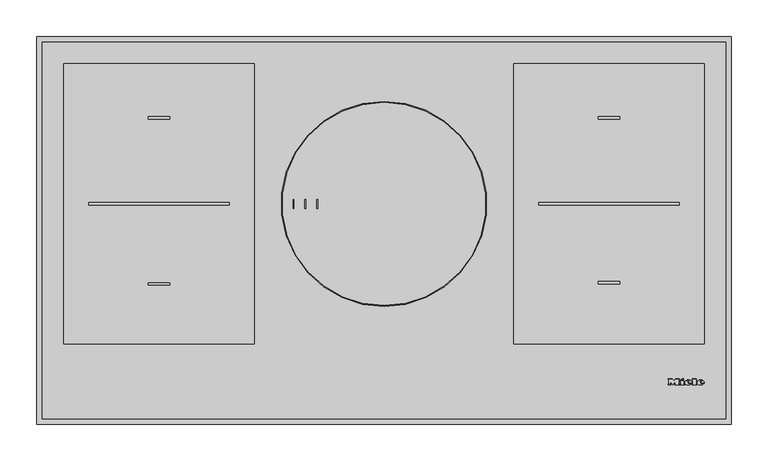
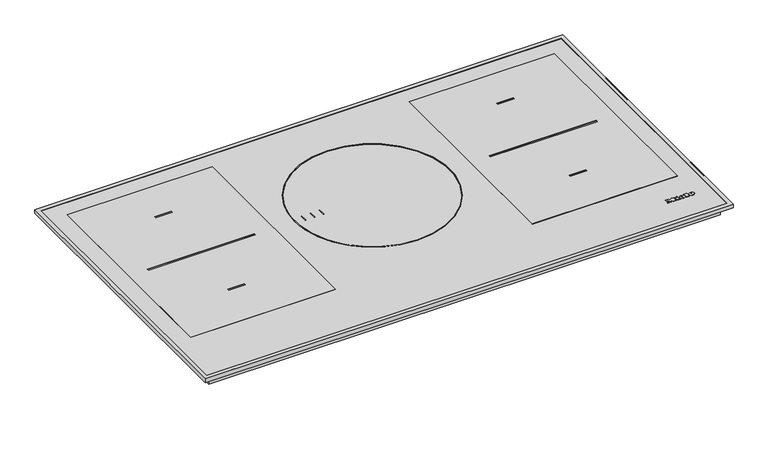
"""IFC4 building model written with IfcOpenShell, lengths in millimetres: proxy geometry, 11276540_BR_KM7594FR : 26759400_BR_11276540_KM7594FR."""

from ifc_helpers import new_model, si_unit, point, frame, frame_2d, origin, place, context, project, spatial, polyline, circle_curve, ellipse_curve, trimmed, segment, composite_curve, outline, extrude, faceted_brep, source, transform, mapped, element, save
from ifc_brep_helpers import plane_surface, cylinder_surface, revolved_surface, extruded_surface, advanced_brep


def specialty_equipment_291f9324(model_context):
    return source(origin(), model_context, "Body", "SolidModel", [
        advanced_brep(
        [(428.96, 55.3948833, 6.4802537), (428.96, 56.2028828, 6.4811551), (434.312, 56.2028828, 6.4811551), (425.0, 56.2028828, 6.4811551), (427.2, 53.4988845, 6.4781386), (434.176, 55.3948833, 6.4802537), (431.76, 55.3948833, 6.4802537), (429.856, 54.4988838, 6.4792542), (428.96, 57.2268821, 6.4822974), (428.96, 58.0988816, 6.4832701), (430.328, 58.0988816, 6.4832701), (430.328, 57.2268821, 6.4822974), (428.96, 55.3959988, 5.4802543), (429.856, 54.4999994, 5.4792548), (431.76, 55.3959988, 5.4802543), (434.176, 55.3959988, 5.4802543), (427.2, 53.5, 5.4781393), (425.0, 56.2039983, 5.4811557), (434.312, 56.2039983, 5.4811557), (428.96, 56.2039983, 5.4811557), (428.96, 57.2279977, 5.482298), (430.328, 57.2279977, 5.482298), (430.328, 58.0999971, 5.4832707), (428.96, 58.0999971, 5.4832707)],
        [
            (0, 1),
            (1, 2),
            (2, 3, ellipse_curve(frame((429.656, 56.2028828, 6.4811551), z_axis=(0.0, -0.0011155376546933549, 0.9999993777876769), x_axis=(-1.0, 0.0, 0.0)), 4.656, 3.848)),
            (3, 4, circle_curve(frame((428.0960436, 56.4748826, 6.4814585), z_axis=(0.0, -0.0011155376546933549, 0.9999993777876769), x_axis=(0.0, -0.9999993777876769, -0.0011155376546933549)), 3.1079688)),
            (4, 5, circle_curve(frame((429.5627936, 58.5868813, 6.4838145), z_axis=(0.0, -0.0011155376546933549, 0.9999993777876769), x_axis=(0.0, -0.9999993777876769, -0.0011155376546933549)), 5.6098607)),
            (5, 6),
            (6, 7, circle_curve(frame((430.2470588, 56.1388828, 6.4810837), z_axis=(0.0, 0.0011155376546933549, -0.9999993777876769), x_axis=(0.0, -0.9999993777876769, -0.0011155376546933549)), 1.6859795)),
            (7, 0, circle_curve(frame((429.856, 55.3948833, 6.4802537), z_axis=(0.0, 0.0011155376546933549, -0.9999993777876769), x_axis=(0.0, -0.9999993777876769, -0.0011155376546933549)), 0.896)),
            (8, 9),
            (9, 10, circle_curve(frame((429.644, 58.0988816, 6.4832701), z_axis=(0.0, 0.0011155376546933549, -0.9999993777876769), x_axis=(0.0, -0.9999993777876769, -0.0011155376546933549)), 0.684)),
            (10, 11),
            (11, 8),
            (12, 13, circle_curve(frame((429.856, 55.3959988, 5.4802543), z_axis=(0.0, -0.0011155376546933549, 0.9999993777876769), x_axis=(0.0, -0.9999993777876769, -0.0011155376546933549)), 0.896)),
            (13, 14, circle_curve(frame((430.2470588, 56.1399984, 5.4810843), z_axis=(0.0, -0.0011155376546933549, 0.9999993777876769), x_axis=(0.0, -0.9999993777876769, -0.0011155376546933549)), 1.6859795)),
            (14, 15),
            (15, 16, circle_curve(frame((429.5627936, 58.5879968, 5.4838151), z_axis=(0.0, 0.0011155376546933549, -0.9999993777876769), x_axis=(0.0, -0.9999993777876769, -0.0011155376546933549)), 5.6098607)),
            (16, 17, circle_curve(frame((428.0960436, 56.4759981, 5.4814591), z_axis=(0.0, 0.0011155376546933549, -0.9999993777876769), x_axis=(0.0, -0.9999993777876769, -0.0011155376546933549)), 3.1079688)),
            (17, 18, ellipse_curve(frame((429.656, 56.2039983, 5.4811557), z_axis=(0.0, 0.0011155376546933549, -0.9999993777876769), x_axis=(-1.0, 0.0, 0.0)), 4.656, 3.848)),
            (18, 19),
            (19, 12),
            (20, 21),
            (21, 22),
            (22, 23, circle_curve(frame((429.644, 58.0999971, 5.4832707), z_axis=(0.0, -0.0011155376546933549, 0.9999993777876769), x_axis=(0.0, -0.9999993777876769, -0.0011155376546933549)), 0.684)),
            (23, 20),
            (0, 12),
            (19, 1),
            (18, 2),
            (5, 15),
            (14, 6),
            (17, 3),
            (13, 7),
            (16, 4),
            (8, 20),
            (23, 9),
            (22, 10),
            (21, 11),
        ],
        [
            plane_surface(frame((428.96, 56.2028828, 6.4811551), z_axis=(0.0, -0.0011155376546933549, 0.9999993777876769), x_axis=(0.0, 0.9999993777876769, 0.0011155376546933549))),
            plane_surface(frame((428.96, 56.2039983, 5.4811557), z_axis=(0.0, 0.0011155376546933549, -0.9999993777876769), x_axis=(0.0, -0.9999993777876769, -0.0011155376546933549))),
            plane_surface(frame((428.96, 55.3948833, 6.4802537), z_axis=(1.0000000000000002, 0.0, 0.0), x_axis=(0.0, 0.001115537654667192, -0.999999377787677))),
            plane_surface(frame((428.96, 56.2028828, 6.4811551), z_axis=(0.0, -0.999999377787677, -0.001115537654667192), x_axis=(0.0, 0.001115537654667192, -0.999999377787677))),
            plane_surface(frame((434.176, 55.3948833, 6.4802537), z_axis=(0.0, 0.999999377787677, 0.001115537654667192), x_axis=(0.0, 0.001115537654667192, -0.999999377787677))),
            extruded_surface(trimmed(ellipse_curve(frame((429.656, 56.2051139, 4.4811563), z_axis=(0.0, -0.0011155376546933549, 0.9999993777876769), x_axis=(-1.0, 0.0, 0.0)), 4.656, 3.848), [point((434.312, 56.2051139, 4.4811563))], [point((425.0, 56.2051139, 4.4811563))], True, "CARTESIAN"), (0.0, -0.001115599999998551, 0.9999994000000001), 1.00000002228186),
            revolved_surface(polyline([(430.2470588, 54.454019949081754, 5.479203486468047), (430.2470588, 54.45290441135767, 6.4792029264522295)]), (430.2470588, 56.1399984, 5.4810843), (0.0, 0.0011155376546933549, -0.9999993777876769)),
            revolved_surface(polyline([(429.856, 54.49999935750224, 5.479254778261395), (429.856, 54.49888381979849, 6.479254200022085)]), (429.856, 55.3959988, 5.4802543), (0.0, 0.0011155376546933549, -0.9999993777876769)),
            cylinder_surface(frame((428.0960436, 56.4759981, 5.4814591), z_axis=(0.0, -0.0011155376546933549, 0.9999993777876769), x_axis=(0.0, -0.9999993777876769, -0.0011155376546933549)), 3.1079688),
            cylinder_surface(frame((429.5627936, 58.5879968, 5.4838151), z_axis=(0.0, -0.0011155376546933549, 0.9999993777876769), x_axis=(0.0, -0.9999993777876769, -0.0011155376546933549)), 5.6098607),
            plane_surface(frame((428.96, 57.2268821, 6.4822974), z_axis=(1.0000000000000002, 0.0, 0.0), x_axis=(0.0, 0.001115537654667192, -0.999999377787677))),
            revolved_surface(polyline([(429.644, 57.415997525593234, 5.48250767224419), (429.644, 57.41488198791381, 6.482507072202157)]), (429.644, 58.0999971, 5.4832707), (0.0, 0.0011155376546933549, -0.9999993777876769)),
            plane_surface(frame((430.328, 58.0988816, 6.4832701), z_axis=(-1.0000000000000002, 0.0, 0.0), x_axis=(0.0, 0.001115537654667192, -0.999999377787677))),
            plane_surface(frame((430.328, 57.2268821, 6.4822974), z_axis=(0.0, 0.999999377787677, 0.001115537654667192), x_axis=(0.0, 0.001115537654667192, -0.999999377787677))),
        ],
        [
            (0, [[1, 2, 3, 4, 5, 6, 7, 8], [9, 10, 11, 12]]),
            (1, [[13, 14, 15, 16, 17, 18, 19, 20], [21, 22, 23, 24]]),
            (2, [[-1, 25, -20, 26]]),
            (3, [[-2, -26, -19, 27]]),
            (4, [[-6, 28, -15, 29]]),
            (5, [[-3, -27, -18, 30]]),
            (6, [[-7, -29, -14, 31]]),
            (7, [[-8, -31, -13, -25]]),
            (8, [[-4, -30, -17, 32]]),
            (9, [[-5, -32, -16, -28]]),
            (10, [[-9, 33, -24, 34]]),
            (11, [[-10, -34, -23, 35]]),
            (12, [[-11, -35, -22, 36]]),
            (13, [[-12, -36, -21, -33]]),
        ],
    ),
        advanced_brep(
        [(412.264, 55.3948833, 6.4802537), (412.264, 56.2028828, 6.4811551), (417.616, 56.2028828, 6.4811551), (408.304, 56.2028828, 6.4811551), (410.504, 53.4988845, 6.4781386), (417.48, 55.3948833, 6.4802537), (415.064, 55.3948833, 6.4802537), (413.16, 54.4988838, 6.4792542), (412.264, 57.2268821, 6.4822974), (412.264, 58.0988816, 6.4832701), (413.632, 58.0988816, 6.4832701), (413.632, 57.2268821, 6.4822974), (412.264, 55.3959988, 5.4802543), (413.16, 54.4999994, 5.4792548), (415.064, 55.3959988, 5.4802543), (417.48, 55.3959988, 5.4802543), (410.504, 53.5, 5.4781393), (408.304, 56.2039983, 5.4811557), (417.616, 56.2039983, 5.4811557), (412.264, 56.2039983, 5.4811557), (412.264, 57.2279977, 5.482298), (413.632, 57.2279977, 5.482298), (413.632, 58.0999971, 5.4832707), (412.264, 58.0999971, 5.4832707)],
        [
            (0, 1),
            (1, 2),
            (2, 3, ellipse_curve(frame((412.96, 56.2028828, 6.4811551), z_axis=(0.0, -0.0011155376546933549, 0.9999993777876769), x_axis=(-1.0, 0.0, 0.0)), 4.656, 3.848)),
            (3, 4, circle_curve(frame((411.4000436, 56.4748826, 6.4814585), z_axis=(0.0, -0.0011155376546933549, 0.9999993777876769), x_axis=(0.0, -0.9999993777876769, -0.0011155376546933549)), 3.1079688)),
            (4, 5, circle_curve(frame((412.8667936, 58.5868813, 6.4838145), z_axis=(0.0, -0.0011155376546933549, 0.9999993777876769), x_axis=(0.0, -0.9999993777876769, -0.0011155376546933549)), 5.6098607)),
            (5, 6),
            (6, 7, circle_curve(frame((413.5510588, 56.1388828, 6.4810837), z_axis=(0.0, 0.0011155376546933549, -0.9999993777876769), x_axis=(0.0, -0.9999993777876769, -0.0011155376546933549)), 1.6859795)),
            (7, 0, circle_curve(frame((413.16, 55.3948833, 6.4802537), z_axis=(0.0, 0.0011155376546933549, -0.9999993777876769), x_axis=(0.0, -0.9999993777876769, -0.0011155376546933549)), 0.896)),
            (8, 9),
            (9, 10, circle_curve(frame((412.948, 58.0988816, 6.4832701), z_axis=(0.0, 0.0011155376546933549, -0.9999993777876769), x_axis=(0.0, -0.9999993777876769, -0.0011155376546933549)), 0.684)),
            (10, 11),
            (11, 8),
            (12, 13, circle_curve(frame((413.16, 55.3959988, 5.4802543), z_axis=(0.0, -0.0011155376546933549, 0.9999993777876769), x_axis=(0.0, -0.9999993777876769, -0.0011155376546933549)), 0.896)),
            (13, 14, circle_curve(frame((413.5510588, 56.1399984, 5.4810843), z_axis=(0.0, -0.0011155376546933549, 0.9999993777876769), x_axis=(0.0, -0.9999993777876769, -0.0011155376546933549)), 1.6859795)),
            (14, 15),
            (15, 16, circle_curve(frame((412.8667936, 58.5879968, 5.4838151), z_axis=(0.0, 0.0011155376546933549, -0.9999993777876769), x_axis=(0.0, -0.9999993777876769, -0.0011155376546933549)), 5.6098607)),
            (16, 17, circle_curve(frame((411.4000436, 56.4759981, 5.4814591), z_axis=(0.0, 0.0011155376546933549, -0.9999993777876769), x_axis=(0.0, -0.9999993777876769, -0.0011155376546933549)), 3.1079688)),
            (17, 18, ellipse_curve(frame((412.96, 56.2039983, 5.4811557), z_axis=(0.0, 0.0011155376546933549, -0.9999993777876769), x_axis=(-1.0, 0.0, 0.0)), 4.656, 3.848)),
            (18, 19),
            (19, 12),
            (20, 21),
            (21, 22),
            (22, 23, circle_curve(frame((412.948, 58.0999971, 5.4832707), z_axis=(0.0, -0.0011155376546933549, 0.9999993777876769), x_axis=(0.0, -0.9999993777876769, -0.0011155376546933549)), 0.684)),
            (23, 20),
            (0, 12),
            (19, 1),
            (18, 2),
            (5, 15),
            (14, 6),
            (17, 3),
            (13, 7),
            (16, 4),
            (8, 20),
            (23, 9),
            (22, 10),
            (21, 11),
        ],
        [
            plane_surface(frame((412.264, 56.2028828, 6.4811551), z_axis=(0.0, -0.0011155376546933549, 0.9999993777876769), x_axis=(0.0, 0.9999993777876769, 0.0011155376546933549))),
            plane_surface(frame((412.264, 56.2039983, 5.4811557), z_axis=(0.0, 0.0011155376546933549, -0.9999993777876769), x_axis=(0.0, -0.9999993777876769, -0.0011155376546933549))),
            plane_surface(frame((412.264, 55.3948833, 6.4802537), z_axis=(1.0000000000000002, 0.0, 0.0), x_axis=(0.0, 0.001115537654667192, -0.999999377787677))),
            plane_surface(frame((412.264, 56.2028828, 6.4811551), z_axis=(0.0, -0.999999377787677, -0.001115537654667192), x_axis=(0.0, 0.001115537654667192, -0.999999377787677))),
            plane_surface(frame((417.48, 55.3948833, 6.4802537), z_axis=(0.0, 0.999999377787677, 0.001115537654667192), x_axis=(0.0, 0.001115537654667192, -0.999999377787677))),
            extruded_surface(trimmed(ellipse_curve(frame((412.96, 56.2051139, 4.4811563), z_axis=(0.0, -0.0011155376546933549, 0.9999993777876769), x_axis=(-1.0, 0.0, 0.0)), 4.656, 3.848), [point((417.616, 56.2051139, 4.4811563))], [point((408.304, 56.2051139, 4.4811563))], True, "CARTESIAN"), (0.0, -0.001115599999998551, 0.9999994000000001), 1.00000002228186),
            revolved_surface(polyline([(413.5510588, 54.454019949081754, 5.479203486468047), (413.5510588, 54.45290441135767, 6.4792029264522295)]), (413.5510588, 56.1399984, 5.4810843), (0.0, 0.0011155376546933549, -0.9999993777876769)),
            revolved_surface(polyline([(413.16, 54.49999935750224, 5.479254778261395), (413.16, 54.49888381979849, 6.479254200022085)]), (413.16, 55.3959988, 5.4802543), (0.0, 0.0011155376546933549, -0.9999993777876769)),
            cylinder_surface(frame((411.4000436, 56.4759981, 5.4814591), z_axis=(0.0, -0.0011155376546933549, 0.9999993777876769), x_axis=(0.0, -0.9999993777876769, -0.0011155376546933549)), 3.1079688),
            cylinder_surface(frame((412.8667936, 58.5879968, 5.4838151), z_axis=(0.0, -0.0011155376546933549, 0.9999993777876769), x_axis=(0.0, -0.9999993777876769, -0.0011155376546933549)), 5.6098607),
            plane_surface(frame((412.264, 57.2268821, 6.4822974), z_axis=(1.0000000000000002, 0.0, 0.0), x_axis=(0.0, 0.001115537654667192, -0.999999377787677))),
            revolved_surface(polyline([(412.948, 57.415997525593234, 5.48250767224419), (412.948, 57.41488198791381, 6.482507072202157)]), (412.948, 58.0999971, 5.4832707), (0.0, 0.0011155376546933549, -0.9999993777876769)),
            plane_surface(frame((413.632, 58.0988816, 6.4832701), z_axis=(-1.0000000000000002, 0.0, 0.0), x_axis=(0.0, 0.001115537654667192, -0.999999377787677))),
            plane_surface(frame((413.632, 57.2268821, 6.4822974), z_axis=(0.0, 0.999999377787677, 0.001115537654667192), x_axis=(0.0, 0.001115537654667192, -0.999999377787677))),
        ],
        [
            (0, [[1, 2, 3, 4, 5, 6, 7, 8], [9, 10, 11, 12]]),
            (1, [[13, 14, 15, 16, 17, 18, 19, 20], [21, 22, 23, 24]]),
            (2, [[-1, 25, -20, 26]]),
            (3, [[-2, -26, -19, 27]]),
            (4, [[-6, 28, -15, 29]]),
            (5, [[-3, -27, -18, 30]]),
            (6, [[-7, -29, -14, 31]]),
            (7, [[-8, -31, -13, -25]]),
            (8, [[-4, -30, -17, 32]]),
            (9, [[-5, -32, -16, -28]]),
            (10, [[-9, 33, -24, 34]]),
            (11, [[-10, -34, -23, 35]]),
            (12, [[-11, -35, -22, 36]]),
            (13, [[-12, -36, -21, -33]]),
        ],
    ),
        extrude(outline(polyline([(0.0, 0.0), (-0.0109086, -2.9993294), (-1.4390415, -2.9920868), (-1.4315307, 0.0), (0.0, 0.0)])), frame((403.52, 61.0279953, 5.486537), z_axis=(0.0, -0.001115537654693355, 0.999999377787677), x_axis=(-0.4247202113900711, 0.9053240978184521, 0.0010099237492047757)), (0.0, 0.0, 1.0), 1.0),
        extrude(outline(polyline([(-0.4933908, 2.4141097), (-2.7800844, -2.4601583), (-7.0459741, -0.4588767), (-7.4401145, -1.299018), (-8.6568709, -0.728194), (-5.9760369, 4.9862153), (-4.7592805, 4.4153913), (-5.1636142, 3.5535222), (-2.1941493, 2.1604399), (-1.7898157, 3.022309), (-0.4933908, 2.4141097)])), frame((403.52, 61.0279953, 5.486537), z_axis=(0.0, -0.001115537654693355, 0.999999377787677), x_axis=(-0.4247202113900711, 0.9053240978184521, 0.0010099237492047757)), (0.0, 0.0, 1.0), 1.0),
        extrude(outline(polyline([(0.0, 0.0), (0.0, -1.304), (-5.504, -1.304), (-5.504, 5.3519999), (-6.488, 5.3519999), (-6.488, 6.696), (0.0, 6.696), (0.0, 5.3519999), (-0.96, 5.3519999), (-0.96, 0.0), (0.0, 0.0)])), frame((418.064, 60.1959958, 5.4856089), z_axis=(0.0, -0.0011155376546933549, 0.9999993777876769), x_axis=(-1.0, 0.0, 0.0)), (0.0, 0.0, 1.0), 1.0),
        extrude(outline(polyline([(0.0, 0.0), (0.0, -1.304), (-5.576, -1.304), (-7.92, 1.696), (-10.256, -1.304), (-15.128, -1.304), (-15.128, 0.0), (-14.112, 0.0), (-14.112, 5.3519999), (-15.128, 5.3519999), (-15.128, 6.696), (-8.744, 6.696), (-8.744, 5.3519999), (-9.728, 5.3519999), (-9.728, 1.8807777), (-6.136, 6.696), (-2.56, 1.9488752), (-2.56, 5.3519999), (-3.52, 5.3519999), (-3.52, 6.696), (0.0, 6.696), (0.0, 5.3519999), (-0.968, 5.3519999), (-0.968, 0.0), (0.0, 0.0)])), frame((385.6, 60.1959958, 5.4856089), z_axis=(0.0, -0.0011155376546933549, 0.9999993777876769), x_axis=(-1.0, 0.0, 0.0)), (0.0, 0.0, 1.0), 1.0),
        extrude(outline(polyline([(468.0, 520.0), (468.0, 1.0), (-468.0, 1.0), (-468.0, 520.0), (468.0, 520.0)])), frame((0.0, 0.0, 2.0), z_axis=(0.0, 0.0, 1.0), x_axis=(1.0, 0.0, 0.0)), (0.0, 0.0, 1.0), 4.0),
        extrude(outline(polyline([(456.5, 511.5), (456.5, 14.5), (-456.5, 14.5), (-456.5, 511.5), (456.5, 511.5)])), frame((0.0, 0.0, -16.8), z_axis=(0.0, 0.0, 1.0), x_axis=(1.0, 0.0, 0.0)), (0.0, 0.0, 1.0), 18.8),
        extrude(outline(polyline([(-52.7, 470.3), (-52.7, 99.3), (-280.7, 99.3), (-280.7, 470.3), (-52.7, 470.3)])), frame((0.0, 0.0, -46.5), z_axis=(0.0, 0.0, 1.0), x_axis=(1.0, 0.0, 0.0)), (0.0, 0.0, 1.0), 29.7),
        extrude(outline(polyline([(-32.5, 336.7), (-53.9, 336.7), (-53.9, 420.1), (-32.5, 420.1), (-32.5, 470.3), (373.5, 470.3), (373.5, 99.3), (-32.5, 99.3), (-32.5, 336.7)])), frame((0.0, 0.0, -46.5), z_axis=(0.0, 0.0, 1.0), x_axis=(1.0, 0.0, 0.0)), (0.0, 0.0, 1.0), 29.7),
        faceted_brep([(464.0, 519.0, 7.0), (464.0, 519.0, 6.0), (464.0, 7.0, 6.0), (464.0, 7.0, 7.0), (471.0, 526.0, 0.0), (471.0, 526.0, 7.0), (471.0, 0.0, 7.0), (471.0, 0.0, 0.0), (470.0, 525.0, 6.0), (470.0, 525.0, 0.0), (470.0, 1.0, 0.0), (470.0, 1.0, 6.0), (-464.0, 7.0, 6.0), (-464.0, 7.0, 7.0), (-471.0, 0.0, 7.0), (-471.0, 0.0, 0.0), (-470.0, 1.0, 0.0), (-470.0, 1.0, 6.0), (-464.0, 519.0, 6.0), (-464.0, 519.0, 7.0), (-471.0, 526.0, 7.0), (-471.0, 526.0, 0.0), (-470.0, 525.0, 0.0), (-470.0, 525.0, 6.0)], [[[0, 1, 2, 3]], [[4, 5, 6, 7]], [[8, 9, 10, 11]], [[3, 2, 12, 13]], [[7, 6, 14, 15]], [[11, 10, 16, 17]], [[13, 12, 18, 19]], [[15, 14, 20, 21]], [[17, 16, 22, 23]], [[19, 18, 1, 0]], [[5, 20, 14, 6], [3, 13, 19, 0]], [[21, 20, 5, 4]], [[7, 15, 21, 4], [9, 22, 16, 10]], [[23, 22, 9, 8]], [[11, 17, 23, 8], [1, 18, 12, 2]]]),
        extrude(outline(polyline([(311.5772603, 433.5), (304.2, 433.5), (304.2, 434.7557039), (310.3215564, 434.7557039), (310.3215564, 438.0519266), (304.670889, 438.0519266), (304.670889, 439.3076304), (310.3215564, 439.3076304), (310.3215564, 442.2899271), (304.356963, 442.2899271), (304.356963, 443.545631), (311.5772603, 443.545631), (311.5772603, 433.5)])), frame((0.0, 0.0, -77.5), z_axis=(0.0, 0.0, 1.0), x_axis=(1.0, 0.0, 0.0)), (0.0, 0.0, 1.0), 1.0),
        extrude(outline(polyline([(302.3164442, 433.5), (296.0379248, 433.5), (296.0379248, 434.7557039), (301.0607403, 434.7557039), (301.0607403, 443.545631), (302.3164442, 443.545631), (302.3164442, 433.5)])), frame((0.0, 0.0, -77.5), z_axis=(0.0, 0.0, 1.0), x_axis=(1.0, 0.0, 0.0)), (0.0, 0.0, 1.0), 1.0),
        extrude(outline(composite_curve([segment(trimmed(circle_curve(frame_2d((304.2, 438.5)), 7.5), [point((304.2, 446.0))], [point((304.2, 431.0))], False, "CARTESIAN"), True, "CONTINUOUS"), segment(trimmed(circle_curve(frame_2d((304.2, 438.5)), 7.5), [point((304.2, 431.0))], [point((304.2, 446.0))], False, "CARTESIAN"), True, "CONTINUOUS")], self_intersect=False)), frame((0.0, 0.0, -76.5), z_axis=(0.0, 0.0, 1.0), x_axis=(1.0, 0.0, 0.0)), (0.0, 0.0, 1.0), 30.0),
        extrude(outline(polyline([(434.25, 489.25), (434.25, 108.75), (175.75, 108.75), (175.75, 489.25), (434.25, 489.25)]), holes=[polyline([(209.7, 300.6), (209.7, 297.4), (400.3, 297.4), (400.3, 300.6), (209.7, 300.6)]), polyline([(319.65, 417.35), (290.35, 417.35), (290.35, 414.15), (319.65, 414.15), (319.65, 417.35)]), polyline([(319.65, 193.45), (290.35, 193.45), (290.35, 190.25), (319.65, 190.25), (319.65, 193.45)])]), frame((0.0, 0.0, 6.0), z_axis=(0.0, 0.0, 1.0), x_axis=(1.0, 0.0, 0.0)), (0.0, 0.0, 1.0), 1.0),
        extrude(outline(polyline([(-175.75, 489.25), (-175.75, 108.75), (-434.25, 108.75), (-434.25, 489.25), (-175.75, 489.25)]), holes=[polyline([(-209.7, 300.6), (-400.3, 300.6), (-400.3, 297.4), (-209.7, 297.4), (-209.7, 300.6)]), polyline([(-290.35, 417.35), (-319.65, 417.35), (-319.65, 414.15), (-290.35, 414.15), (-290.35, 417.35)]), polyline([(-290.35, 191.85), (-319.65, 191.85), (-319.65, 188.65), (-290.35, 188.65), (-290.35, 191.85)])]), frame((0.0, 0.0, 6.0), z_axis=(0.0, 0.0, 1.0), x_axis=(1.0, 0.0, 0.0)), (0.0, 0.0, 1.0), 1.0),
        extrude(outline(composite_curve([segment(trimmed(circle_curve(frame_2d((-449.0, 83.0)), 3.0), [point((-449.0, 86.0))], [point((-449.0, 80.0))], False, "CARTESIAN"), True, "CONTINUOUS"), segment(trimmed(circle_curve(frame_2d((-449.0, 83.0)), 3.0), [point((-449.0, 80.0))], [point((-449.0, 86.0))], False, "CARTESIAN"), True, "CONTINUOUS")], self_intersect=False)), frame((0.0, 0.0, -22.0), z_axis=(0.0, 0.0, 1.0), x_axis=(1.0, 0.0, 0.0)), (0.0, 0.0, 1.0), 5.2),
        extrude(outline(composite_curve([segment(trimmed(circle_curve(frame_2d((449.0, 443.0)), 3.0), [point((449.0, 446.0))], [point((449.0, 440.0))], False, "CARTESIAN"), True, "CONTINUOUS"), segment(trimmed(circle_curve(frame_2d((449.0, 443.0)), 3.0), [point((449.0, 440.0))], [point((449.0, 446.0))], False, "CARTESIAN"), True, "CONTINUOUS")], self_intersect=False)), frame((0.0, 0.0, -22.0), z_axis=(0.0, 0.0, 1.0), x_axis=(1.0, 0.0, 0.0)), (0.0, 0.0, 1.0), 5.2),
        extrude(outline(composite_curve([segment(trimmed(circle_curve(frame_2d((0.0, 299.0)), 139.2), [point((0.0, 438.2))], [point((0.0, 159.8))], False, "CARTESIAN"), True, "CONTINUOUS"), segment(trimmed(circle_curve(frame_2d((0.0, 299.0)), 139.2), [point((0.0, 159.8))], [point((0.0, 438.2))], False, "CARTESIAN"), True, "CONTINUOUS")], self_intersect=False), holes=[composite_curve([segment(trimmed(circle_curve(frame_2d((0.0, 299.0)), 138.0), [point((0.0, 437.0))], [point((0.0, 161.0))], True, "CARTESIAN"), True, "CONTINUOUS"), segment(trimmed(circle_curve(frame_2d((0.0, 299.0)), 138.0), [point((0.0, 161.0))], [point((0.0, 437.0))], True, "CARTESIAN"), True, "CONTINUOUS")], self_intersect=False)]), frame((0.0, 0.0, 6.0), z_axis=(0.0, 0.0, 1.0), x_axis=(1.0, 0.0, 0.0)), (0.0, 0.0, 1.0), 1.0),
        extrude(outline(polyline([(-91.2, 305.0), (-90.0, 305.0), (-90.0, 293.0), (-91.2, 293.0), (-91.2, 305.0)])), frame((0.0, 0.0, 6.0), z_axis=(0.0, 0.0, 1.0), x_axis=(1.0, 0.0, 0.0)), (0.0, 0.0, 1.0), 1.0),
        extrude(outline(polyline([(-107.3, 305.0), (-106.1, 305.0), (-106.1, 293.0), (-107.3, 293.0), (-107.3, 305.0)])), frame((0.0, 0.0, 6.0), z_axis=(0.0, 0.0, 1.0), x_axis=(1.0, 0.0, 0.0)), (0.0, 0.0, 1.0), 1.0),
        extrude(outline(polyline([(-123.4, 305.0), (-122.2, 305.0), (-122.2, 293.0), (-123.4, 293.0), (-123.4, 305.0)])), frame((0.0, 0.0, 6.0), z_axis=(0.0, 0.0, 1.0), x_axis=(1.0, 0.0, 0.0)), (0.0, 0.0, 1.0), 1.0),
    ])


if __name__ == "__main__":
    model = new_model("IFC4")
    model_context = context("Model", 3, world=origin())
    ifc_project = project(units=[si_unit("LENGTHUNIT", "METRE", prefix="MILLI")], contexts=[model_context])
    site = spatial("IfcSite", under=ifc_project)
    building = spatial("IfcBuilding", under=site)
    placement = place(None, origin())
    specialty_equipment_shape = specialty_equipment_291f9324(model_context)
    element("IfcBuildingElementProxy", 1, Name="11276540_BR_KM7594FR : 26759400_BR_11276540_KM7594FR", ObjectType="11276540_BR_KM7594FR : 26759400_BR_11276540_KM7594FR", at=placement, inside=building, context=model_context, shape_type="MappedRepresentation", body=[
        mapped(specialty_equipment_shape, transform((0.0, 0.0, 0.0), x_axis=(1.0, 0.0, 0.0), y_axis=(0.0, 1.0, 0.0), z_axis=(0.0, 0.0, 1.0))),
    ])
    save(model, "model.ifc")
